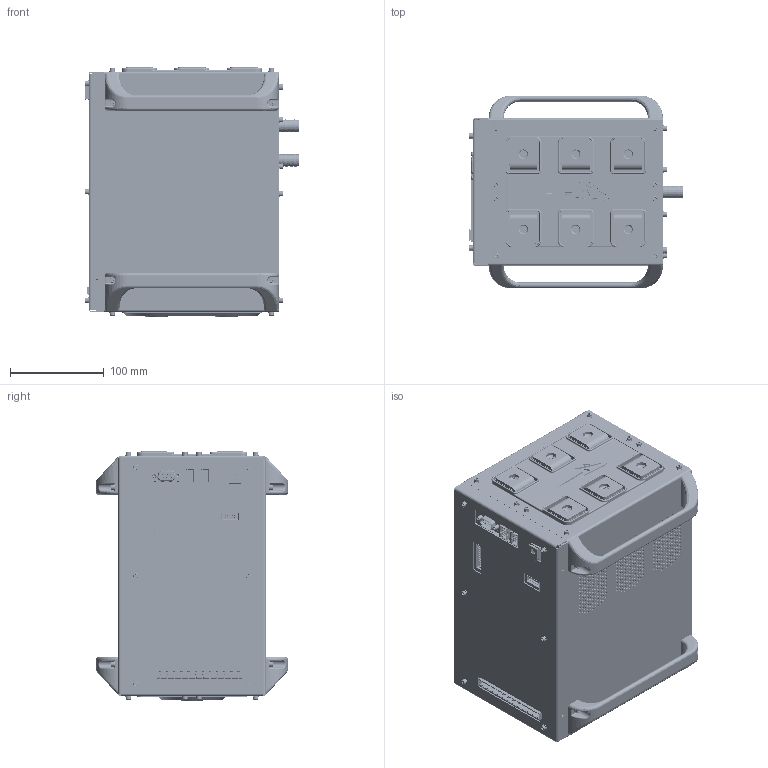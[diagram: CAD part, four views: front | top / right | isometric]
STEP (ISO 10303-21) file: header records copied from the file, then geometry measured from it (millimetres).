
FILE_DESCRIPTION (( 'STEP AP214' ), '1' );
FILE_NAME ('CRD600DA12E-XM3 (External Geometry).STEP', '2020-11-11T17:03:39', ( '' ), ( '' ), 'SwSTEP 2.0', 'SolidWorks 2018', '' );
FILE_SCHEMA (( 'AUTOMOTIVE_DESIGN' ));
Length unit declared in the file: millimetre
Products named in the file (1): CRD600DA12E-XM3 (External Geometry)
Bounding box: 228.7 x 205.54 x 267.5 mm (x, y, z)
Surface area: 821481.8 mm2 (no closed solid volume)
Topology: 0 solids, 113 shells, 7775 faces, 19631 edges, 12376 vertices
Faces by surface type: cylinder 3386, plane 3375, cone 727, torus 170, bspline 117
Entity records: 335605 total; most frequent: CARTESIAN_POINT 55774, DIRECTION 41056, ORIENTED_EDGE 39107, EDGE_CURVE 19583, AXIS2_PLACEMENT_3D 15058, VERTEX_POINT 12376, VECTOR 10940, LINE 10940
